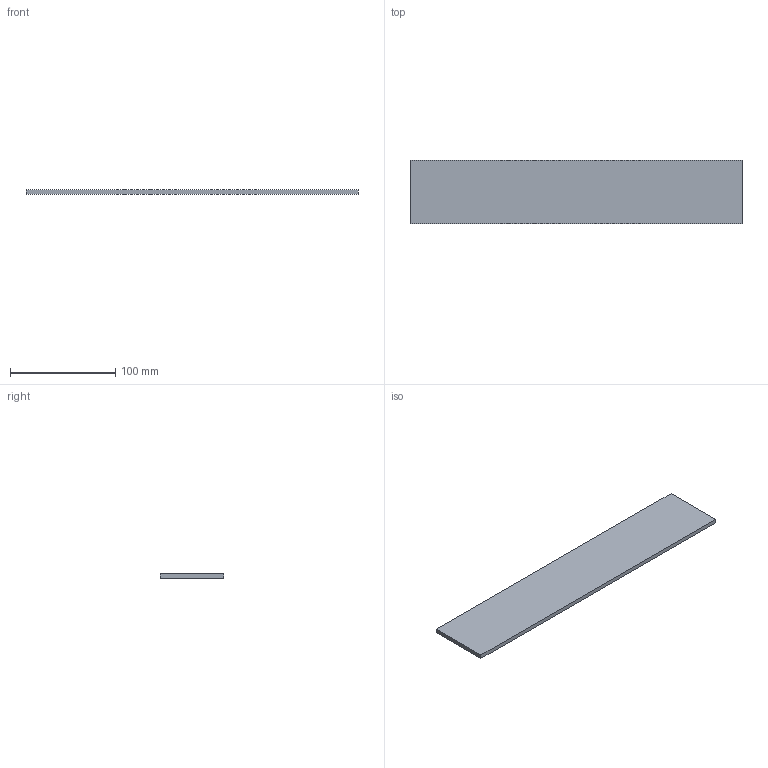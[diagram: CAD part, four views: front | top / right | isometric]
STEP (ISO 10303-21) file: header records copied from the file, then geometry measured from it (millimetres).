
FILE_DESCRIPTION (( 'STEP AP214' ), '1' );
FILE_NAME ('_Variowing Glasdekor NL350.step', '2010-07-14T13:33:36', ( 'grass' ), ( '' ), 'SwSTEP 2.0', 'SolidWorks 2010', '' );
FILE_SCHEMA (( 'AUTOMOTIVE_DESIGN' ));
Length unit declared in the file: millimetre
Products named in the file (1): _Variowing Glasdekor NL350
Bounding box: 315 x 60 x 4 mm (x, y, z)
Volume: 75600 mm3; surface area: 40800 mm2
Topology: 1 solids, 1 shells, 6 faces, 12 edges, 8 vertices
Faces by surface type: plane 6
Entity records: 190 total; most frequent: CARTESIAN_POINT 27, DIRECTION 26, ORIENTED_EDGE 24, VECTOR 12, LINE 12, EDGE_CURVE 12, VERTEX_POINT 8, AXIS2_PLACEMENT_3D 7
